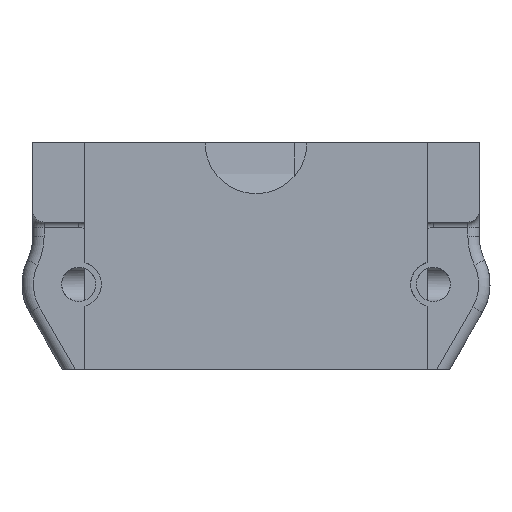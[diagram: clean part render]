
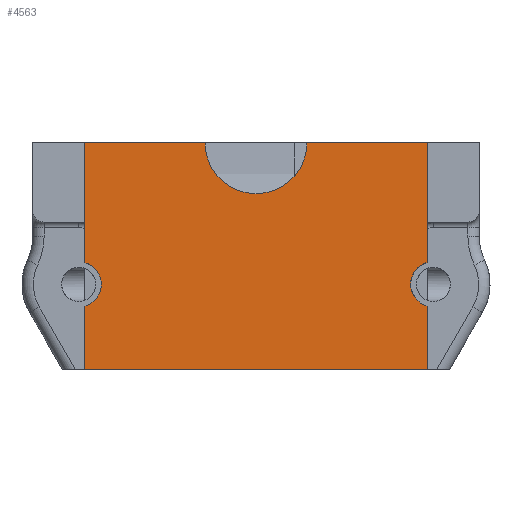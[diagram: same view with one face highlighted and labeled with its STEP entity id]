
A CAD part, front view. The second image highlights one B-rep face of the part: STEP entity #4563.
In plain terms, the highlighted planar face has unit normal (0, -1, 0).
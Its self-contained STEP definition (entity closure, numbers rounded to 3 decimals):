
#18 = CARTESIAN_POINT ( 'NONE',  ( 4.5, -39.1, 0. ) ) ;
#131 = DIRECTION ( 'NONE',  ( 0., 0., -1. ) ) ;
#148 = CARTESIAN_POINT ( 'NONE',  ( 0., -39.1, 0. ) ) ;
#194 = VERTEX_POINT ( 'NONE', #5951 ) ;
#223 = ORIENTED_EDGE ( 'NONE', *, *, #3846, .T. ) ;
#238 = AXIS2_PLACEMENT_3D ( 'NONE', #2255, #3501, #4125 ) ;
#257 = LINE ( 'NONE', #4007, #6521 ) ;
#339 = VERTEX_POINT ( 'NONE', #616 ) ;
#360 = DIRECTION ( 'NONE',  ( -1., 0., 0. ) ) ;
#361 = CIRCLE ( 'NONE', #649, 2. ) ;
#431 = EDGE_CURVE ( 'NONE', #1419, #5941, #625, .T. ) ;
#616 = CARTESIAN_POINT ( 'NONE',  ( -4.5, -39.1, 0. ) ) ;
#625 = LINE ( 'NONE', #3781, #1774 ) ;
#649 = AXIS2_PLACEMENT_3D ( 'NONE', #2507, #5036, #3750 ) ;
#662 = ORIENTED_EDGE ( 'NONE', *, *, #4219, .T. ) ;
#705 = CARTESIAN_POINT ( 'NONE',  ( -15.099, -39.1, -10.577 ) ) ;
#761 = DIRECTION ( 'NONE',  ( 0., 1., 0. ) ) ;
#816 = LINE ( 'NONE', #3874, #6969 ) ;
#916 = EDGE_CURVE ( 'NONE', #7576, #2836, #5477, .T. ) ;
#1103 = VERTEX_POINT ( 'NONE', #6604 ) ;
#1178 = CARTESIAN_POINT ( 'NONE',  ( -15.099, -39.1, 0. ) ) ;
#1226 = LINE ( 'NONE', #6480, #1700 ) ;
#1268 = CARTESIAN_POINT ( 'NONE',  ( 15.65, -39.1, -12.5 ) ) ;
#1342 = DIRECTION ( 'NONE',  ( 0., 1., 0. ) ) ;
#1419 = VERTEX_POINT ( 'NONE', #1178 ) ;
#1428 = DIRECTION ( 'NONE',  ( 0., 0., 1. ) ) ;
#1437 = ORIENTED_EDGE ( 'NONE', *, *, #6912, .T. ) ;
#1700 = VECTOR ( 'NONE', #5235, 1000. ) ;
#1707 = VECTOR ( 'NONE', #2227, 1000. ) ;
#1743 = ORIENTED_EDGE ( 'NONE', *, *, #916, .T. ) ;
#1751 = CARTESIAN_POINT ( 'NONE',  ( 15.099, -39.1, 0. ) ) ;
#1774 = VECTOR ( 'NONE', #131, 1000. ) ;
#1949 = DIRECTION ( 'NONE',  ( 0., 0., -1. ) ) ;
#2021 = CARTESIAN_POINT ( 'NONE',  ( 13.65, -39.1, -12.5 ) ) ;
#2227 = DIRECTION ( 'NONE',  ( 0., 0., 1. ) ) ;
#2255 = CARTESIAN_POINT ( 'NONE',  ( 0., -39.1, 0. ) ) ;
#2341 = AXIS2_PLACEMENT_3D ( 'NONE', #7402, #761, #1949 ) ;
#2435 = VECTOR ( 'NONE', #7347, 1000. ) ;
#2507 = CARTESIAN_POINT ( 'NONE',  ( -15.65, -39.1, -12.5 ) ) ;
#2778 = CIRCLE ( 'NONE', #7482, 2. ) ;
#2814 = EDGE_LOOP ( 'NONE', ( #1743, #223, #5267, #1437, #6277, #662, #4376, #6314, #4614, #5561, #3059, #5606 ) ) ;
#2836 = VERTEX_POINT ( 'NONE', #2021 ) ;
#2969 = CARTESIAN_POINT ( 'NONE',  ( -9., -39.1, 0. ) ) ;
#3042 = VERTEX_POINT ( 'NONE', #18 ) ;
#3059 = ORIENTED_EDGE ( 'NONE', *, *, #3354, .T. ) ;
#3354 = EDGE_CURVE ( 'NONE', #5552, #4958, #4938, .T. ) ;
#3501 = DIRECTION ( 'NONE',  ( 0., 1., 0. ) ) ;
#3632 = DIRECTION ( 'NONE',  ( 0., 0., -1. ) ) ;
#3660 = AXIS2_PLACEMENT_3D ( 'NONE', #6114, #7198, #3632 ) ;
#3750 = DIRECTION ( 'NONE',  ( 0., 0., -1. ) ) ;
#3781 = CARTESIAN_POINT ( 'NONE',  ( -15.099, -39.1, 0. ) ) ;
#3785 = EDGE_CURVE ( 'NONE', #339, #1419, #5731, .T. ) ;
#3846 = EDGE_CURVE ( 'NONE', #2836, #1103, #2778, .T. ) ;
#3874 = CARTESIAN_POINT ( 'NONE',  ( 15.099, -39.1, 0. ) ) ;
#4007 = CARTESIAN_POINT ( 'NONE',  ( 19.699, -39.1, 0. ) ) ;
#4096 = CIRCLE ( 'NONE', #238, 4.5 ) ;
#4112 = VECTOR ( 'NONE', #7797, 1000. ) ;
#4125 = DIRECTION ( 'NONE',  ( 0., 0., -1. ) ) ;
#4219 = EDGE_CURVE ( 'NONE', #194, #339, #6378, .T. ) ;
#4233 = CARTESIAN_POINT ( 'NONE',  ( -10.15, -39.1, -20. ) ) ;
#4266 = CARTESIAN_POINT ( 'NONE',  ( 15.099, -39.1, 0. ) ) ;
#4340 = VERTEX_POINT ( 'NONE', #7426 ) ;
#4376 = ORIENTED_EDGE ( 'NONE', *, *, #3785, .T. ) ;
#4563 = ADVANCED_FACE ( 'NONE', ( #5821 ), #7077, .T. ) ;
#4614 = ORIENTED_EDGE ( 'NONE', *, *, #5939, .F. ) ;
#4725 = EDGE_CURVE ( 'NONE', #4958, #7576, #6275, .T. ) ;
#4734 = EDGE_CURVE ( 'NONE', #3042, #194, #4096, .T. ) ;
#4938 = LINE ( 'NONE', #4233, #2435 ) ;
#4958 = VERTEX_POINT ( 'NONE', #4981 ) ;
#4981 = CARTESIAN_POINT ( 'NONE',  ( 15.099, -39.1, -20. ) ) ;
#5036 = DIRECTION ( 'NONE',  ( 0., -1., 0. ) ) ;
#5235 = DIRECTION ( 'NONE',  ( 0., 0., -1. ) ) ;
#5267 = ORIENTED_EDGE ( 'NONE', *, *, #7579, .T. ) ;
#5477 = CIRCLE ( 'NONE', #2341, 2. ) ;
#5501 = EDGE_CURVE ( 'NONE', #4340, #5552, #1226, .T. ) ;
#5552 = VERTEX_POINT ( 'NONE', #6033 ) ;
#5561 = ORIENTED_EDGE ( 'NONE', *, *, #5501, .T. ) ;
#5582 = AXIS2_PLACEMENT_3D ( 'NONE', #148, #5607, #7346 ) ;
#5606 = ORIENTED_EDGE ( 'NONE', *, *, #4725, .T. ) ;
#5607 = DIRECTION ( 'NONE',  ( 0., 1., 0. ) ) ;
#5731 = LINE ( 'NONE', #2969, #4112 ) ;
#5821 = FACE_OUTER_BOUND ( 'NONE', #2814, .T. ) ;
#5939 = EDGE_CURVE ( 'NONE', #4340, #5941, #361, .T. ) ;
#5941 = VERTEX_POINT ( 'NONE', #705 ) ;
#5951 = CARTESIAN_POINT ( 'NONE',  ( 0., -39.1, -4.5 ) ) ;
#6033 = CARTESIAN_POINT ( 'NONE',  ( -15.099, -39.1, -20. ) ) ;
#6114 = CARTESIAN_POINT ( 'NONE',  ( 0., -39.1, 0. ) ) ;
#6128 = DIRECTION ( 'NONE',  ( 0., 0., -1. ) ) ;
#6275 = LINE ( 'NONE', #1751, #1707 ) ;
#6277 = ORIENTED_EDGE ( 'NONE', *, *, #4734, .T. ) ;
#6314 = ORIENTED_EDGE ( 'NONE', *, *, #431, .T. ) ;
#6378 = CIRCLE ( 'NONE', #5582, 4.5 ) ;
#6480 = CARTESIAN_POINT ( 'NONE',  ( -15.099, -39.1, 0. ) ) ;
#6521 = VECTOR ( 'NONE', #360, 1000. ) ;
#6604 = CARTESIAN_POINT ( 'NONE',  ( 15.099, -39.1, -10.577 ) ) ;
#6837 = VERTEX_POINT ( 'NONE', #4266 ) ;
#6912 = EDGE_CURVE ( 'NONE', #6837, #3042, #257, .T. ) ;
#6969 = VECTOR ( 'NONE', #1428, 1000. ) ;
#7077 = PLANE ( 'NONE',  #3660 ) ;
#7198 = DIRECTION ( 'NONE',  ( 0., -1., 0. ) ) ;
#7346 = DIRECTION ( 'NONE',  ( 0., 0., -1. ) ) ;
#7347 = DIRECTION ( 'NONE',  ( 1., 0., 0. ) ) ;
#7402 = CARTESIAN_POINT ( 'NONE',  ( 15.65, -39.1, -12.5 ) ) ;
#7426 = CARTESIAN_POINT ( 'NONE',  ( -15.099, -39.1, -14.423 ) ) ;
#7482 = AXIS2_PLACEMENT_3D ( 'NONE', #1268, #1342, #6128 ) ;
#7483 = CARTESIAN_POINT ( 'NONE',  ( 15.099, -39.1, -14.423 ) ) ;
#7576 = VERTEX_POINT ( 'NONE', #7483 ) ;
#7579 = EDGE_CURVE ( 'NONE', #1103, #6837, #816, .T. ) ;
#7797 = DIRECTION ( 'NONE',  ( -1., 0., 0. ) ) ;
